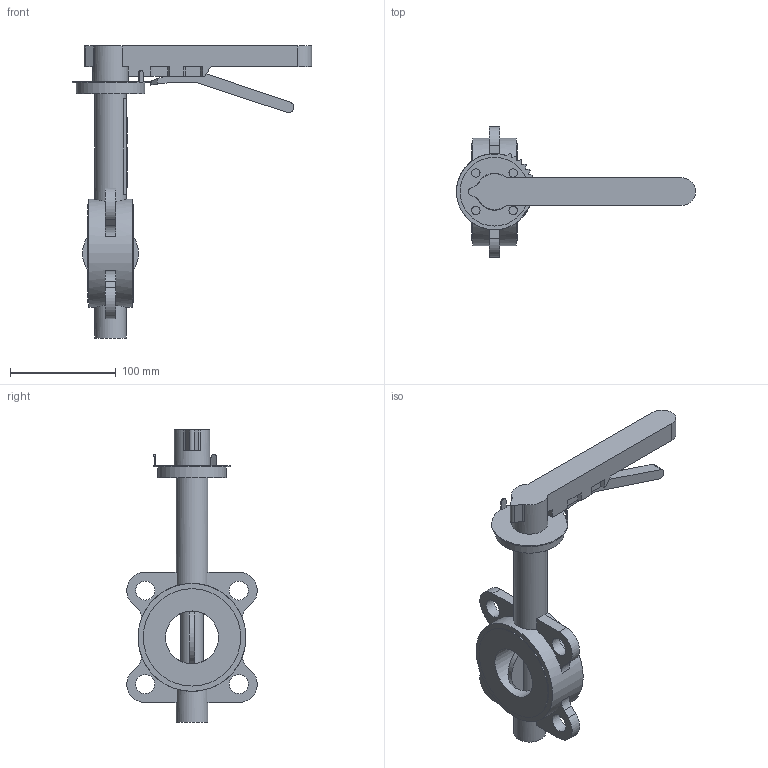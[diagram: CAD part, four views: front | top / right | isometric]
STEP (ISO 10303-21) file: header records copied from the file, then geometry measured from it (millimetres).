
FILE_DESCRIPTION(('STEP AP203'), '1');
FILE_NAME('青蜮铕 017WDN50', '', ('UNSPECIFIED'), ('UNSPECIFIED'), 'ASCON STEP Converter 1.6', 'ASCON Math Kernel', '');
FILE_SCHEMA(('CONFIG_CONTROL_DESIGN'));
Length unit declared in the file: millimetre
Bounding box: 225.97 x 123.33 x 276 mm (x, y, z)
Volume: 154685.8 mm3; surface area: 106627.2 mm2
Topology: 1 solids, 2 shells, 694 faces, 2042 edges, 1316 vertices
Faces by surface type: cylinder 462, plane 232
Full cylindrical faces by diameter (mm): 8 x4, 12.6 x1, 18 x4, 21 x1, 30 x2, 34 x1, 35 x1, 50 x1, 65 x1, 92 x2, 102 x1
Entity records: 29751 total; most frequent: CARTESIAN_POINT 4825, DIRECTION 4373, ORIENTED_EDGE 3985, EDGE_CURVE 2024, AXIS2_PLACEMENT_3D 1677, VERTEX_POINT 1316, LINE 1019, VECTOR 1019
